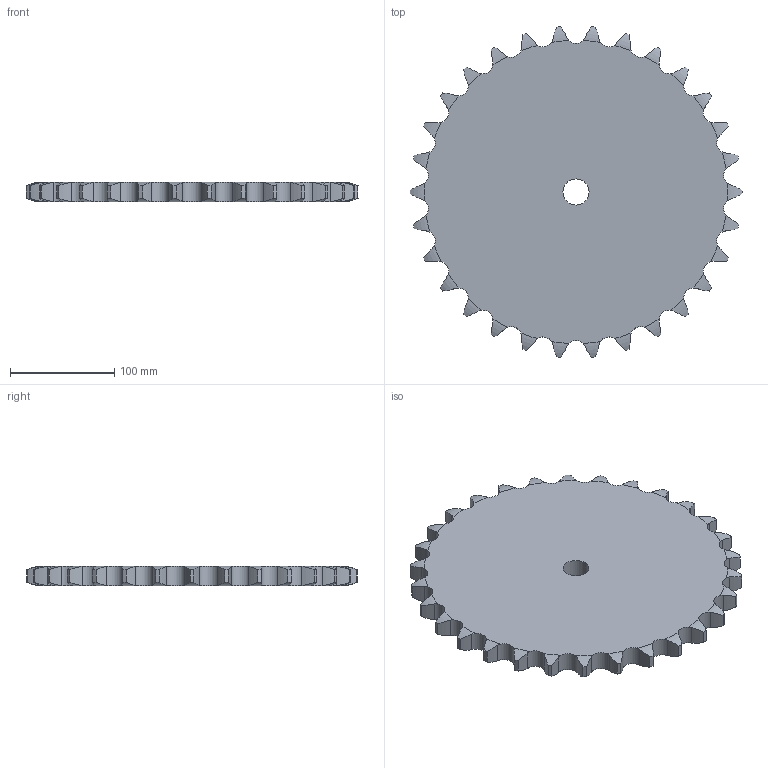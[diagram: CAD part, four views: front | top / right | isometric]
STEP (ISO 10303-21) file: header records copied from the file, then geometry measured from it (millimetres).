
FILE_DESCRIPTION((''),'2;1');
FILE_NAME('500-601-0030_PRT','2021-02-12T',('Brieden'),('Brieden'),'PRO/ENGINEER BY PARAMETRIC TECHNOLOGY CORPORATION, 2010160','PRO/ENGINEER BY PARAMETRIC TECHNOLOGY CORPORATION, 2010160','');
FILE_SCHEMA(('AUTOMOTIVE_DESIGN { 1 0 10303 214 1 1 1 1 }'));
Length unit declared in the file: millimetre
Products named in the file (1): 500-601-0030_PRT
Bounding box: 318.14 x 316.76 x 18.5 mm (x, y, z)
Volume: 1273699.3 mm3; surface area: 165101.2 mm2
Topology: 1 solids, 1 shells, 184 faces, 546 edges, 364 vertices
Faces by surface type: cylinder 122, torus 60, plane 2
Entity records: 9150 total; most frequent: CARTESIAN_POINT 2801, ORIENTED_EDGE 1092, DIRECTION 858, PRESENTATION_STYLE_ASSIGNMENT 547, STYLED_ITEM 547, CURVE_STYLE 546, EDGE_CURVE 546, AXIS2_PLACEMENT_3D 368
